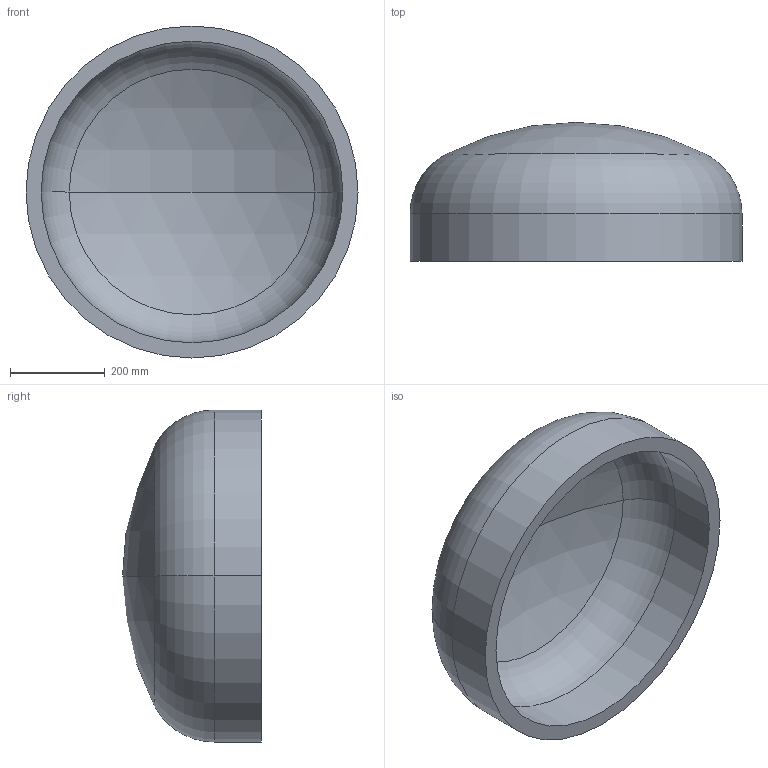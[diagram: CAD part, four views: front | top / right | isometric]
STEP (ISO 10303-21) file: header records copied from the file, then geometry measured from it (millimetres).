
FILE_DESCRIPTION (( 'STEP AP203' ), '1' );
FILE_NAME ('DIN 28013 Korbbogenform_-_Boden DIN 28013 - 700 x 100 - I - s=32.step', '2016-07-01T08:06:39', ( '' ), ( '' ), 'SwSTEP 2.0', 'SolidWorks 2013', '' );
FILE_SCHEMA (( 'CONFIG_CONTROL_DESIGN' ));
Length unit declared in the file: millimetre
Products named in the file (1): DIN 28013 Korbbogenform_-_Boden DIN 28013 - 700 x 100 - I - s=32
Bounding box: 700 x 292.96 x 700 mm (x, y, z)
Volume: 22862151.4 mm3; surface area: 1498183.5 mm2
Topology: 1 solids, 1 shells, 13 faces, 24 edges, 14 vertices
Faces by surface type: torus 4, cylinder 4, sphere 4, plane 1
Entity records: 407 total; most frequent: DIRECTION 72, CARTESIAN_POINT 52, ORIENTED_EDGE 48, AXIS2_PLACEMENT_3D 34, EDGE_CURVE 24, CIRCLE 20, VERTEX_POINT 14, EDGE_LOOP 14
